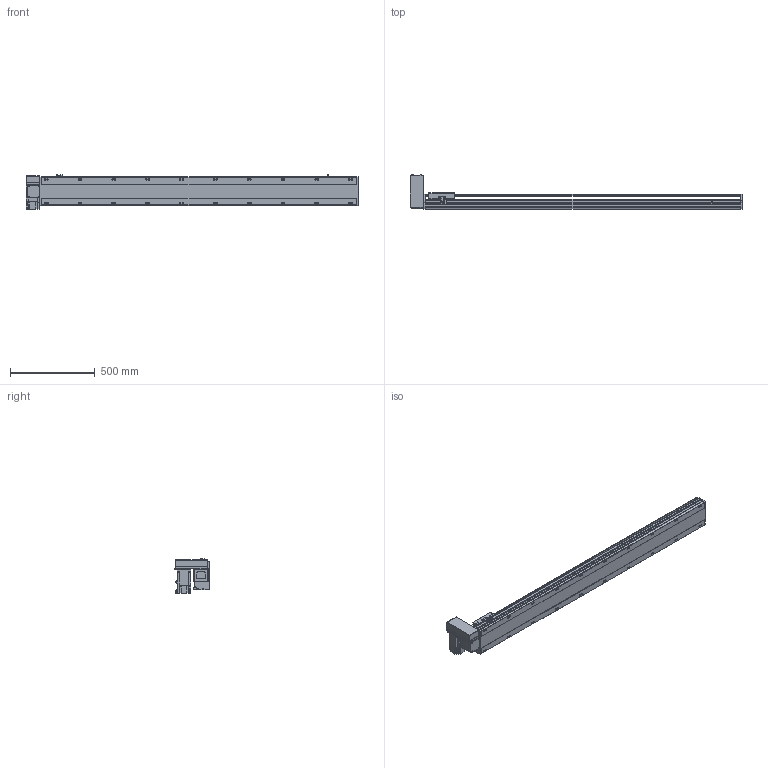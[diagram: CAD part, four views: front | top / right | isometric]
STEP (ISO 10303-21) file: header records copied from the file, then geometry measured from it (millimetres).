
FILE_DESCRIPTION( ( 'STEP AP214' ), '1' );
FILE_NAME( 'x:/temp/worker_5/temp/exporttempdir_3988_132_vN97L/format_0/PBS170-P40-S1600-RU-T75-C1-N(0).stp', '2022-06-08T05:58:54', ( 'License CC BY-ND 4.0' ), ( 'CADENAS' ), ' ', 'PARTsolutions', ' ' );
FILE_SCHEMA( ( 'AUTOMOTIVE_DESIGN { 1 0 10303 214 1 1 1 1 }' ) );
Length unit declared in the file: millimetre
Products named in the file (7): PBS170-P40-S1600-RU-T75-C1-N(0); _PBS170-S1600()_body; _PBS170T-RU_motors; _T75-p1; _PBS170_sliser; _PBS170_plant; _PBS170_sensor
Assembly tree (8 placements, depth 2):
  PBS170-P40-S1600-RU-T75-C1-N(0)
    _PBS170-S1600()_body
    _PBS170T-RU_motors
    _T75-p1
    _PBS170_sliser
    _PBS170_plant
    _PBS170_sensor  x3
Bounding box: 1963 x 206 x 205.3 mm (x, y, z)
Volume: 15267845.6 mm3; surface area: 1955094.3 mm2
Topology: 8 solids, 8 shells, 1114 faces, 2955 edges, 1926 vertices
Faces by surface type: plane 699, cylinder 355, cone 50, sphere 8, torus 2
Full cylindrical faces by diameter (mm): 3.242 x4, 4 x2, 4.4 x4, 4.5 x6, 4.917 x4, 6 x9, 6.647 x28, 7 x2, 7.5 x4, 8 x8, 8.5 x20, 10 x4, 10.5 x20, 11 x2, 30 x2, 40 x1, 70 x1
Entity records: 41024 total; most frequent: CARTESIAN_POINT 6557, DIRECTION 5440, ORIENTED_EDGE 5148, EDGE_CURVE 2574, AXIS2_PLACEMENT_3D 1897, VERTEX_POINT 1778, LINE 1646, VECTOR 1646
